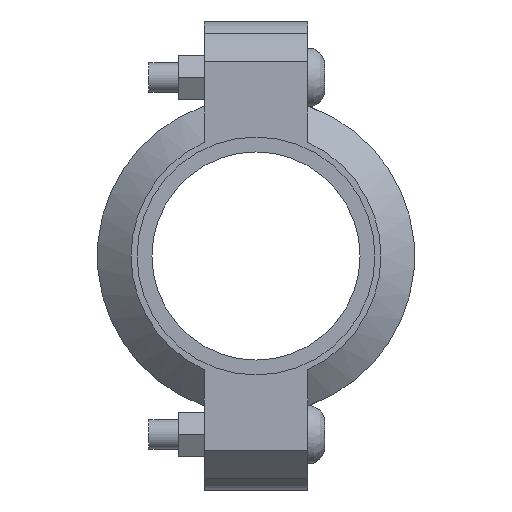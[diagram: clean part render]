
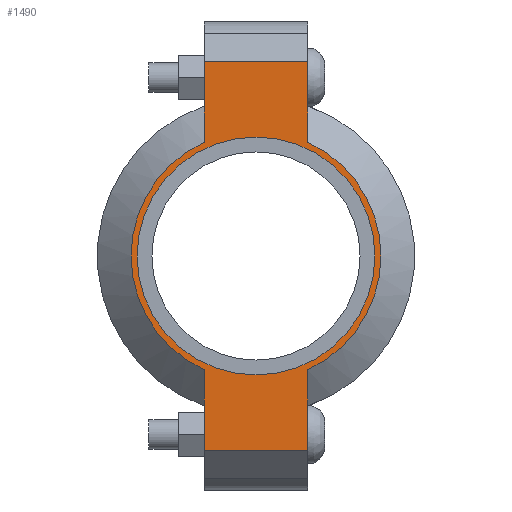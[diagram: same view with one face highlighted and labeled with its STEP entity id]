
A CAD part, left-side view. The second image highlights one B-rep face of the part: STEP entity #1490.
In plain terms, the highlighted planar face has unit normal (-1, 0, 0) as drawn and (0, 0, 1) by its records, which use the part's own axes.
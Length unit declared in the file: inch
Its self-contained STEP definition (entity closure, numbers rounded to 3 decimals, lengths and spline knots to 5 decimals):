
#152=LINE('',#2599,#245);
#165=LINE('',#2643,#258);
#170=LINE('',#2667,#263);
#177=LINE('',#2685,#270);
#184=LINE('',#2710,#277);
#185=LINE('',#2713,#278);
#245=VECTOR('',#2079,0.3937);
#258=VECTOR('',#2108,0.3937);
#263=VECTOR('',#2119,0.3937);
#270=VECTOR('',#2136,0.3937);
#277=VECTOR('',#2157,0.3937);
#278=VECTOR('',#2162,0.3937);
#326=FACE_BOUND('',#486,.T.);
#391=FACE_OUTER_BOUND('',#485,.T.);
#485=EDGE_LOOP('',(#1239,#1240,#1241,#1242,#1243,#1244,#1245,#1246));
#486=EDGE_LOOP('',(#1247));
#582=CIRCLE('',#1753,1.575);
#583=CIRCLE('',#1754,1.575);
#584=CIRCLE('',#1755,1.5);
#685=VERTEX_POINT('',#2594);
#686=VERTEX_POINT('',#2598);
#702=VERTEX_POINT('',#2640);
#703=VERTEX_POINT('',#2642);
#709=VERTEX_POINT('',#2662);
#710=VERTEX_POINT('',#2666);
#715=VERTEX_POINT('',#2682);
#716=VERTEX_POINT('',#2684);
#722=VERTEX_POINT('',#2715);
#852=EDGE_CURVE('',#686,#685,#152,.T.);
#872=EDGE_CURVE('',#703,#702,#165,.T.);
#881=EDGE_CURVE('',#710,#709,#170,.T.);
#890=EDGE_CURVE('',#716,#715,#177,.T.);
#902=EDGE_CURVE('',#710,#702,#184,.T.);
#903=EDGE_CURVE('',#709,#716,#582,.T.);
#904=EDGE_CURVE('',#686,#715,#185,.T.);
#905=EDGE_CURVE('',#685,#703,#583,.T.);
#906=EDGE_CURVE('',#722,#722,#584,.T.);
#1239=ORIENTED_EDGE('',*,*,#902,.F.);
#1240=ORIENTED_EDGE('',*,*,#881,.T.);
#1241=ORIENTED_EDGE('',*,*,#903,.T.);
#1242=ORIENTED_EDGE('',*,*,#890,.T.);
#1243=ORIENTED_EDGE('',*,*,#904,.F.);
#1244=ORIENTED_EDGE('',*,*,#852,.T.);
#1245=ORIENTED_EDGE('',*,*,#905,.T.);
#1246=ORIENTED_EDGE('',*,*,#872,.T.);
#1247=ORIENTED_EDGE('',*,*,#906,.T.);
#1343=PLANE('',#1752);
#1490=ADVANCED_FACE('',(#391,#326),#1343,.T.);
#1752=AXIS2_PLACEMENT_3D('',#2711,#2158,#2159);
#1753=AXIS2_PLACEMENT_3D('',#2712,#2160,#2161);
#1754=AXIS2_PLACEMENT_3D('',#2714,#2163,#2164);
#1755=AXIS2_PLACEMENT_3D('',#2716,#2165,#2166);
#2079=DIRECTION('',(1.,0.,0.));
#2108=DIRECTION('',(1.,0.,0.));
#2119=DIRECTION('',(-1.,0.,0.));
#2136=DIRECTION('',(-1.,0.,0.));
#2157=DIRECTION('',(0.,-1.,0.));
#2158=DIRECTION('center_axis',(0.,0.,1.));
#2159=DIRECTION('ref_axis',(-1.,0.,0.));
#2160=DIRECTION('center_axis',(0.,0.,1.));
#2161=DIRECTION('ref_axis',(1.,0.,0.));
#2162=DIRECTION('',(0.,1.,0.));
#2163=DIRECTION('center_axis',(0.,0.,1.));
#2164=DIRECTION('ref_axis',(1.,0.,0.));
#2165=DIRECTION('center_axis',(0.,0.,-1.));
#2166=DIRECTION('ref_axis',(1.,0.,0.));
#2594=CARTESIAN_POINT('',(-1.43462,-0.65,0.94));
#2598=CARTESIAN_POINT('',(-2.45,-0.65,0.94));
#2599=CARTESIAN_POINT('',(2.95,-0.65,0.94));
#2640=CARTESIAN_POINT('',(2.45,-0.65,0.94));
#2642=CARTESIAN_POINT('',(1.43462,-0.65,0.94));
#2643=CARTESIAN_POINT('',(2.95,-0.65,0.94));
#2662=CARTESIAN_POINT('',(1.43462,0.65,0.94));
#2666=CARTESIAN_POINT('',(2.45,0.65,0.94));
#2667=CARTESIAN_POINT('',(-2.95,0.65,0.94));
#2682=CARTESIAN_POINT('',(-2.45,0.65,0.94));
#2684=CARTESIAN_POINT('',(-1.43462,0.65,0.94));
#2685=CARTESIAN_POINT('',(-2.95,0.65,0.94));
#2710=CARTESIAN_POINT('',(2.45,-0.325,0.94));
#2711=CARTESIAN_POINT('Origin',(0.,0.,
0.94));
#2712=CARTESIAN_POINT('Origin',(0.,0.,0.94));
#2713=CARTESIAN_POINT('',(-2.45,0.325,0.94));
#2714=CARTESIAN_POINT('Origin',(0.,0.,0.94));
#2715=CARTESIAN_POINT('',(-1.5,0.,0.94));
#2716=CARTESIAN_POINT('Origin',(0.,0.,0.94));
